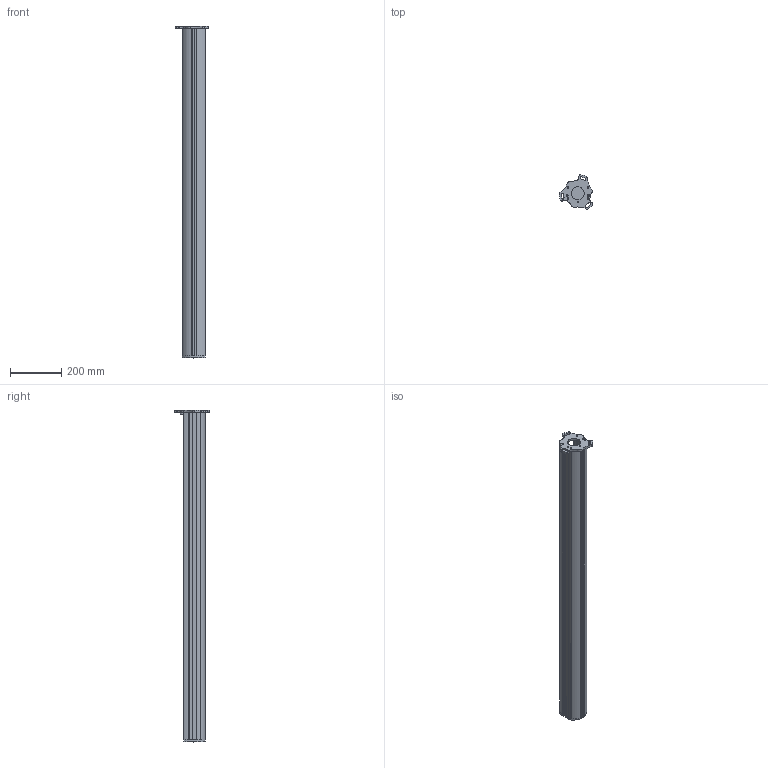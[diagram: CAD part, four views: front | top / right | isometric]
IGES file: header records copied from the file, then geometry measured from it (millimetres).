
Global section: file name: No Iges File Name specified; native system: Autodesk Inventor 2009; preprocessor: AutoDesk Inventor Iges Exporter R2009; author: seisen; date: 20120711.102949; units: millimetre
Bounding box: 131.3 x 134.69 x 1296.92 mm (x, y, z)
Volume: 1495775.8 mm3; surface area: 936338.7 mm2
Topology: 5 solids, 6 shells, 270 faces, 768 edges, 512 vertices
Faces by surface type: plane 102, bspline 81, revolution 51, cylinder 34, cone 2
